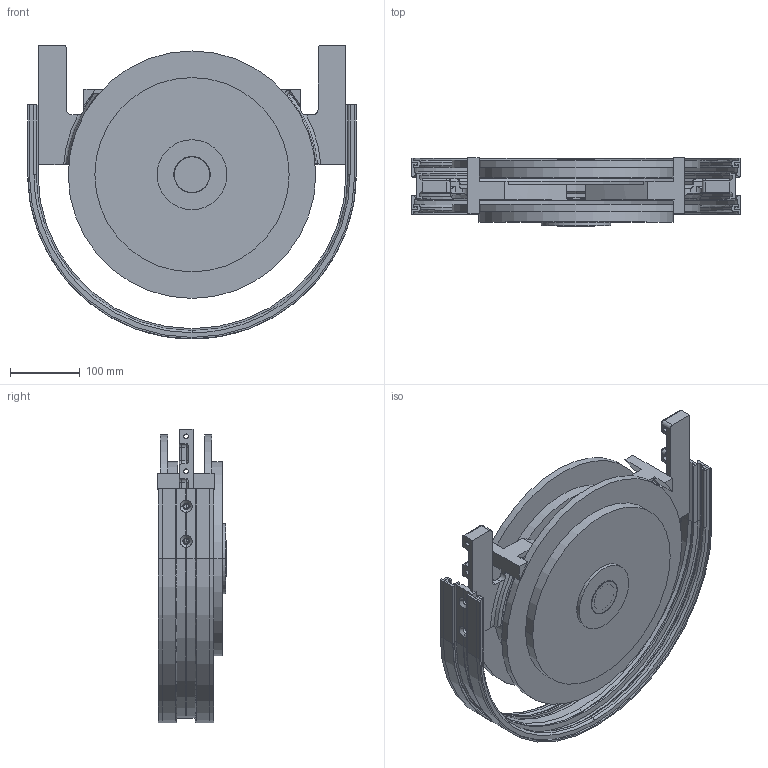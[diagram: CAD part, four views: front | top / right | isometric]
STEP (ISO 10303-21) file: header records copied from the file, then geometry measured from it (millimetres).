
FILE_DESCRIPTION (( 'STEP AP203' ), '1' );
FILE_NAME ('R1C200-180.STEP', '2008-11-24T14:38:19', ( 'faber' ), ( '' ), 'SwSTEP 2.0', 'SolidWorks 2008', '' );
FILE_SCHEMA (( 'CONFIG_CONTROL_DESIGN' ));
Length unit declared in the file: millimetre
Products named in the file (1): R1C200-180
Bounding box: 470 x 98 x 420.5 mm (x, y, z)
Surface area: 788499.6 mm2 (no closed solid volume)
Topology: 0 solids, 152 shells, 851 faces, 3086 edges, 2360 vertices
Faces by surface type: plane 437, cylinder 219, bspline 174, cone 21
Entity records: 42616 total; most frequent: CARTESIAN_POINT 19646, ORIENTED_EDGE 4430, DIRECTION 3987, EDGE_CURVE 3086, VERTEX_POINT 2360, AXIS2_PLACEMENT_3D 1363, LINE 1261, VECTOR 1261
